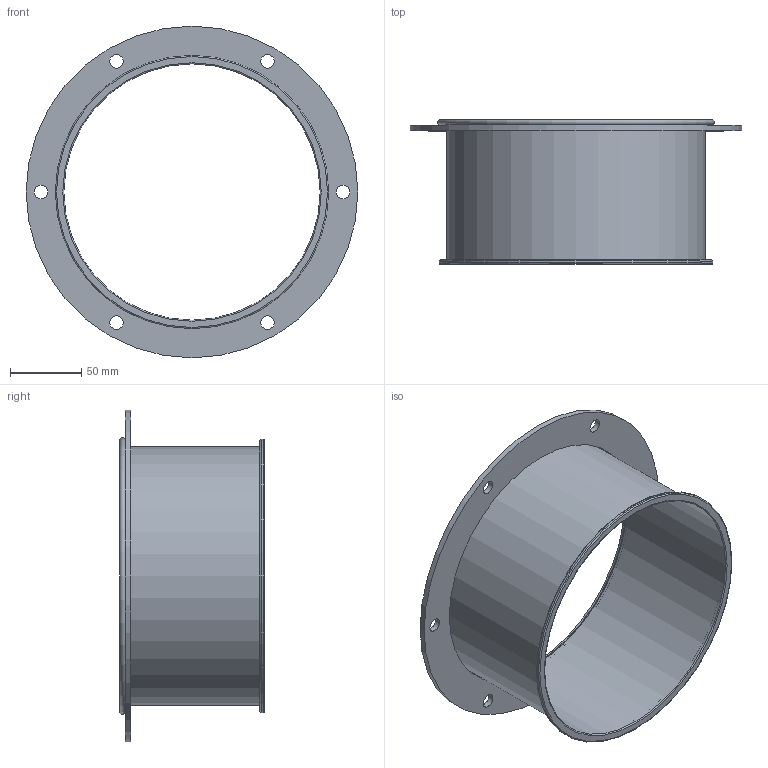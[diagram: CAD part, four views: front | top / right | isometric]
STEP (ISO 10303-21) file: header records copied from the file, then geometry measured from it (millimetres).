
FILE_DESCRIPTION(/* description */ (''),/* implementation_level */ '2;1');
FILE_NAME(/* name */ 'EA126-41B.stp',/* time_stamp */ '2021-02-23T13:45:17+01:00',/* author */ (''),/* organization */ (''),/* preprocessor_version */ 'ST-DEVELOPER v11',/* originating_system */ 'SIEMENS UGS NX 6.0',/* authorisation */ '');
FILE_SCHEMA (('CONFIG_CONTROL_DESIGN'));
Length unit declared in the file: millimetre
Products named in the file (1): gars4FD7yzhe
Bounding box: 233 x 101.5 x 233 mm (x, y, z)
Volume: 132252.3 mm3; surface area: 181522.2 mm2
Topology: 3 solids, 3 shells, 30 faces, 65 edges, 45 vertices
Faces by surface type: cylinder 15, plane 10, torus 5
Full cylindrical faces by diameter (mm): 9.5 x6, 180 x2, 181.6 x2, 183 x1, 191.6 x2, 192 x1, 233 x1
Entity records: 782 total; most frequent: DIRECTION 134, CARTESIAN_POINT 103, FACE_BOUND 72, EDGE_LOOP 72, ORIENTED_EDGE 72, AXIS2_PLACEMENT_3D 67, VERTEX_POINT 36, EDGE_CURVE 36
